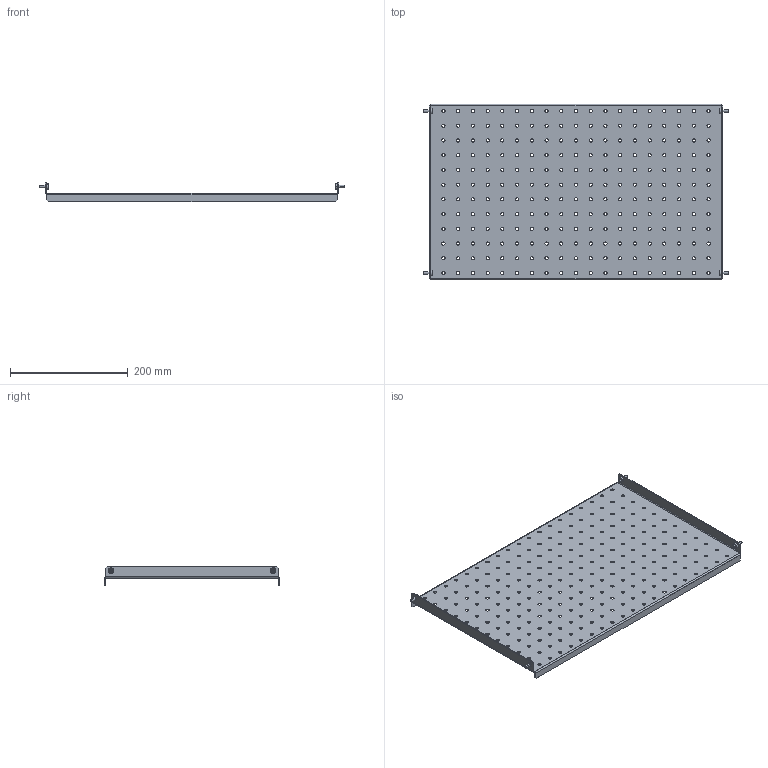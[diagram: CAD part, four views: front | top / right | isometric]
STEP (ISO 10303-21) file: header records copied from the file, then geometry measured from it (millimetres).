
FILE_DESCRIPTION (( 'STEP AP203' ), '1' );
FILE_NAME ('MA1.700.060003.02.00 Ìîíòàæíàÿ ïàíåëü Â300 Ø600 ïåðôîðèðîâàííàÿ EKF AleSta-MP3P600.STEP', '2024-02-20T12:23:24', ( '' ), ( '' ), 'SwSTEP 2.0', 'SolidWorks 2021', '' );
FILE_SCHEMA (( 'CONFIG_CONTROL_DESIGN' ));
Length unit declared in the file: millimetre
Products named in the file (3): MA1.700.060003.02.01 Ìîíòàæíàÿ ïàíåëü Â300 Ø600 ïåðôîðèðîâàííàÿ  EKF AleSta_˜=600; MA1.700.060003.02.00 Ìîíòàæíàÿ ïàíåëü Â300 Ø600 ïåðôîðèðîâàííàÿ  EKF AleSta-MP3P600; Âèíò_ðåçüáîâûäàâëèâàþùèé_Ì5õ12_DIN 7500E_Œ5å12
Assembly tree (5 placements, depth 2):
  MA1.700.060003.02.00 Ìîíòàæíàÿ ïàíåëü Â300 Ø600 ïåðôîðèðîâàííàÿ  EKF AleSta-MP3P600
    MA1.700.060003.02.01 Ìîíòàæíàÿ ïàíåëü Â300 Ø600 ïåðôîðèðîâàííàÿ  EKF AleSta_˜=600
    Âèíò_ðåçüáîâûäàâëèâàþùèé_Ì5õ12_DIN 7500E_Œ5å12  x4
Bounding box: 519 x 298 x 32.5 mm (x, y, z)
Volume: 249078.1 mm3; surface area: 340292.4 mm2
Topology: 5 solids, 5 shells, 574 faces, 1628 edges, 1072 vertices
Faces by surface type: cylinder 488, plane 78, cone 8
Entity records: 19201 total; most frequent: DIRECTION 3548, CARTESIAN_POINT 3066, ORIENTED_EDGE 3052, EDGE_CURVE 1526, AXIS2_PLACEMENT_3D 1488, VERTEX_POINT 1006, EDGE_LOOP 992, CIRCLE 954
